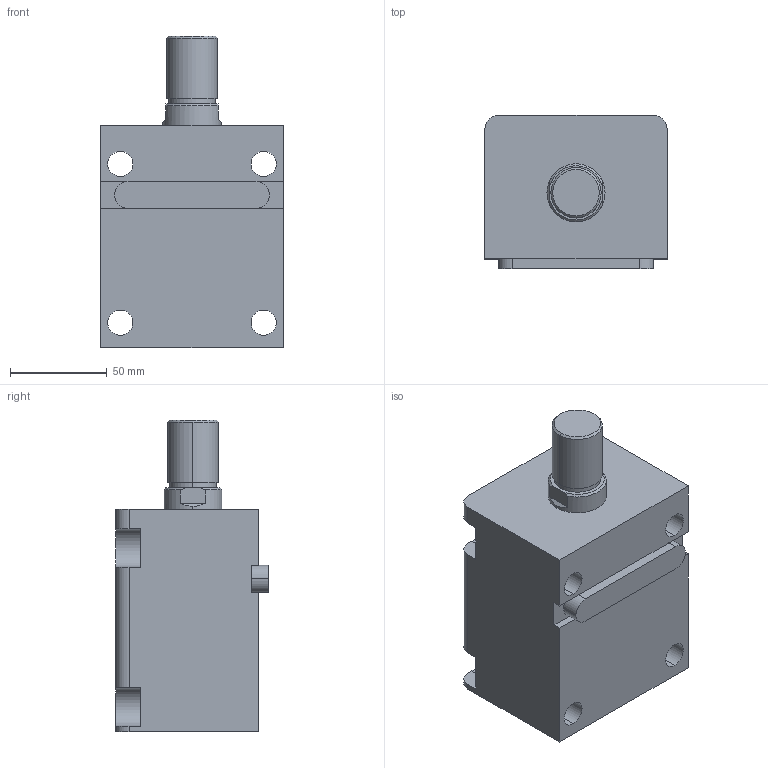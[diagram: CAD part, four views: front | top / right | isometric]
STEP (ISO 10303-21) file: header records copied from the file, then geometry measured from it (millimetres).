
FILE_DESCRIPTION (( 'STEP AP203' ), '1' );
FILE_NAME ('HTB-LA50-55W.STEP', '2019-10-09T07:10:33', ( '微软用户' ), ( '微软中国' ), 'SwSTEP 2.0', 'SolidWorks 2012', '' );
FILE_SCHEMA (( 'CONFIG_CONTROL_DESIGN' ));
Length unit declared in the file: millimetre
Products named in the file (4): HTB-LA50-55W活塞杆; HTB-LA50-55W; HTB-LA50-55掛极; HTB-LA50-瑩
Assembly tree (3 placements, depth 2):
  HTB-LA50-55W
    HTB-LA50-55掛极
    HTB-LA50-55W活塞杆
    HTB-LA50-瑩
Bounding box: 94 x 79 x 161 mm (x, y, z)
Volume: 705923.5 mm3; surface area: 103807.3 mm2
Topology: 3 solids, 3 shells, 90 faces, 219 edges, 144 vertices
Faces by surface type: plane 41, cylinder 37, cone 8, torus 4
Entity records: 3107 total; most frequent: DIRECTION 497, CARTESIAN_POINT 487, ORIENTED_EDGE 438, EDGE_CURVE 219, AXIS2_PLACEMENT_3D 190, VERTEX_POINT 144, LINE 117, VECTOR 117
